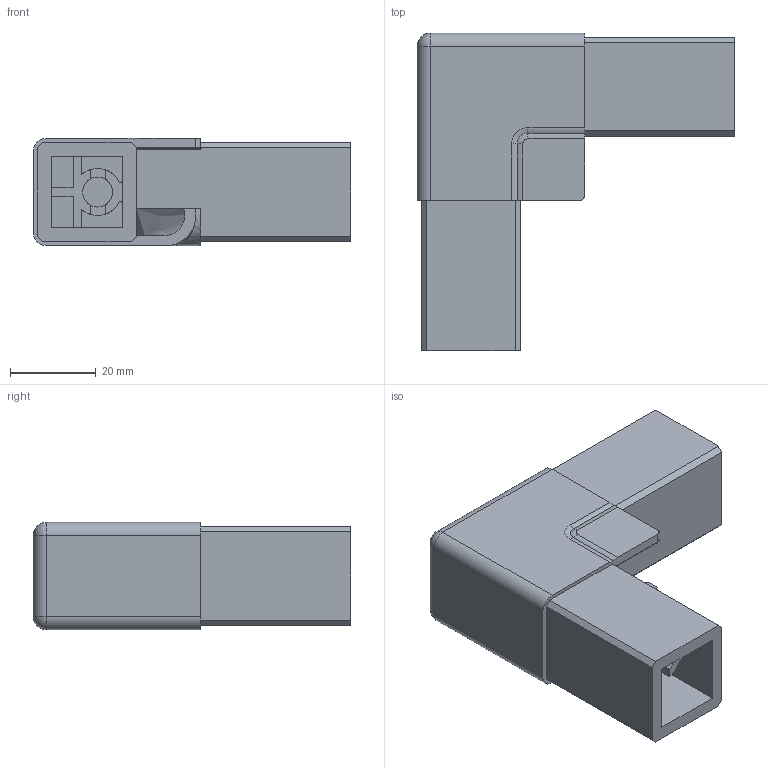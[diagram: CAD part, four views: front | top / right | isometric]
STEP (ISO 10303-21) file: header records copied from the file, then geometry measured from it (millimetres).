
FILE_DESCRIPTION (( 'STEP AP214' ), '1' );
FILE_NAME ('L15845.step', '2024-12-03T16:19:58', ( '' ), ( '' ), 'SwSTEP 2.0', 'SolidWorks 2023', '' );
FILE_SCHEMA (( 'AUTOMOTIVE_DESIGN' ));
Length unit declared in the file: millimetre
Products named in the file (1): L15845
Bounding box: 74 x 74 x 25 mm (x, y, z)
Volume: 43349.1 mm3; surface area: 28596.2 mm2
Topology: 1 solids, 1 shells, 188 faces, 580 edges, 377 vertices
Faces by surface type: plane 116, cylinder 61, torus 5, bspline 4, sphere 2
Full cylindrical faces by diameter (mm): 7 x3
Entity records: 6670 total; most frequent: CARTESIAN_POINT 1518, ORIENTED_EDGE 1132, DIRECTION 1013, EDGE_CURVE 566, LINE 405, VECTOR 405, VERTEX_POINT 370, AXIS2_PLACEMENT_3D 304
